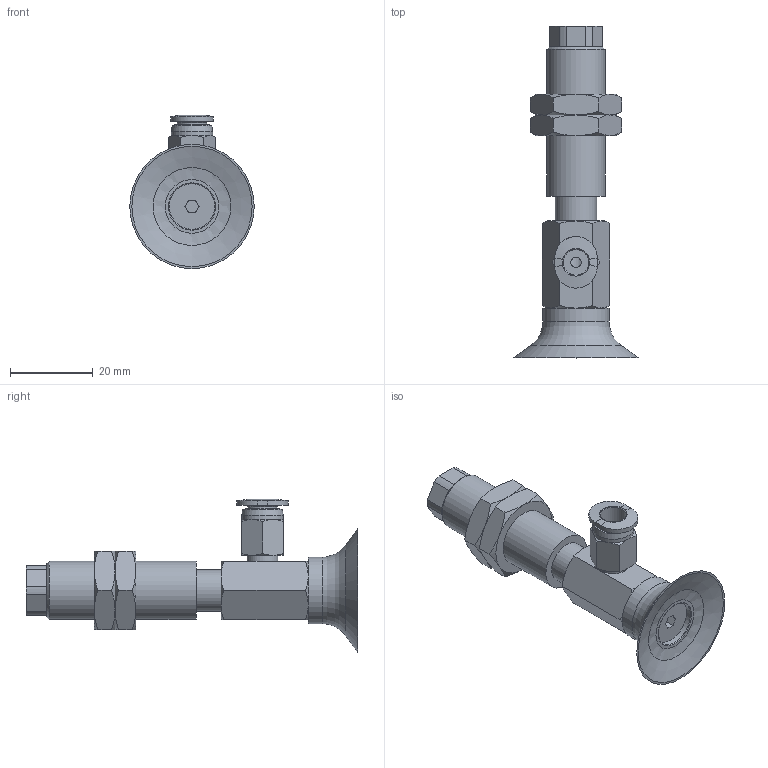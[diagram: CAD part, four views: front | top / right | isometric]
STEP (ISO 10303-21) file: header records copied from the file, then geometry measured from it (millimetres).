
FILE_DESCRIPTION(('STEP AP203'),'1');
FILE_NAME('-O.stp','2025-04-09T07:15:58',(' '),(' '),'Spatial InterOp 3D',' ',' ');
FILE_SCHEMA(('CONFIG_CONTROL_DESIGN'));
Length unit declared in the file: millimetre
Products named in the file (8): BNABPFYS-30-6-※-O; TN-PF-30-M6-NAPF; CONNECTOR-30-6; Nut-30-6-s; NAPFTS-30-6-FBODY; NAPFTS-30-6-MBODY; BPFG-30-※; PC-C_06-M5
Assembly tree (8 placements, depth 2):
  BNABPFYS-30-6-※-O
    TN-PF-30-M6-NAPF
    CONNECTOR-30-6
    Nut-30-6-s  x2
    NAPFTS-30-6-FBODY
    NAPFTS-30-6-MBODY
    BPFG-30-※
    PC-C_06-M5
Bounding box: 30 x 80 x 36.98 mm (x, y, z)
Volume: 14067.6 mm3; surface area: 12164.7 mm2
Topology: 7 solids, 10 shells, 196 faces, 406 edges, 245 vertices
Faces by surface type: plane 83, cone 67, cylinder 31, torus 7, bspline 5, revolution 3
Full cylindrical faces by diameter (mm): 3 x2, 4 x2, 4.134 x2, 4.917 x1, 5 x2, 6 x2, 7 x1, 7.4 x1, 8.2 x1, 10 x3, 11 x2, 12.917 x2, 14 x1, 16 x1
Entity records: 5239 total; most frequent: CARTESIAN_POINT 1471, DIRECTION 703, ORIENTED_EDGE 610, EDGE_CURVE 307, AXIS2_PLACEMENT_3D 301, EDGE_LOOP 250, VERTEX_POINT 213, FACE_OUTER_BOUND 143
